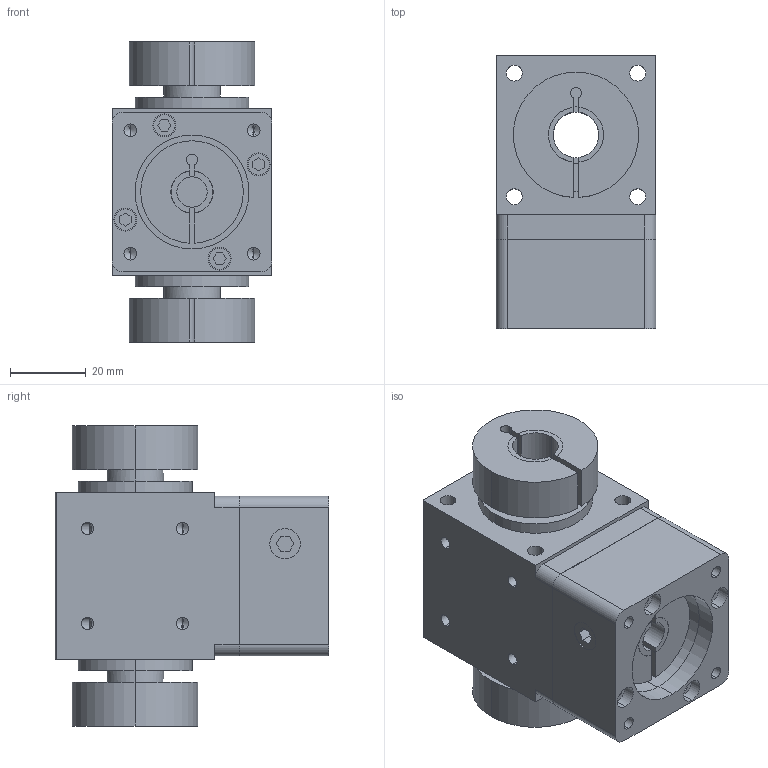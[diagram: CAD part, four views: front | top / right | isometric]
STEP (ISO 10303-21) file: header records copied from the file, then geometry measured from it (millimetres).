
FILE_DESCRIPTION (( 'STEP AP203' ), '1' );
FILE_NAME ('T42-C2单级模型（M4-46）.STEP', '2021-08-09T09:25:30', ( '' ), ( '' ), 'SwSTEP 2.0', 'SolidWorks 2016', '' );
FILE_SCHEMA (( 'CONFIG_CONTROL_DESIGN' ));
Length unit declared in the file: millimetre
Products named in the file (1): T42-C2单级模型（M4-46）
Bounding box: 42.1 x 72 x 79 mm (x, y, z)
Volume: 132721.8 mm3; surface area: 35901.7 mm2
Topology: 1 solids, 1 shells, 304 faces, 756 edges, 472 vertices
Faces by surface type: cylinder 146, plane 114, cone 44
Entity records: 9117 total; most frequent: CARTESIAN_POINT 1745, DIRECTION 1574, ORIENTED_EDGE 1480, EDGE_CURVE 740, AXIS2_PLACEMENT_3D 589, VERTEX_POINT 472, LINE 396, VECTOR 396
